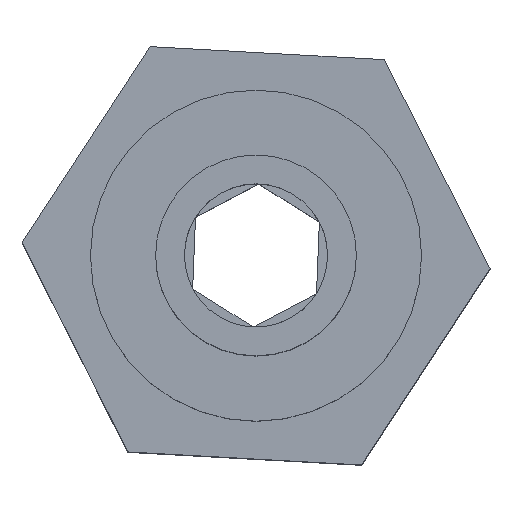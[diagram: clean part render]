
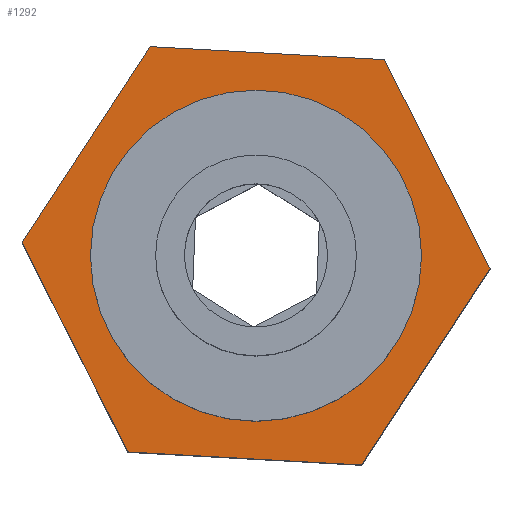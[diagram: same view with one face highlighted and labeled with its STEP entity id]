
A CAD part, top view. The second image highlights one B-rep face of the part: STEP entity #1292.
In plain terms, the highlighted planar face has unit normal (0, 0, 1).
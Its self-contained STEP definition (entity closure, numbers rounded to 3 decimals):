
#2 = DIRECTION ( 'NONE',  ( 0., 0., 1. ) ) ;
#20 = PLANE ( 'NONE',  #275 ) ;
#32 = CARTESIAN_POINT ( 'NONE',  ( -6.004, -9.181, 20. ) ) ;
#37 = CARTESIAN_POINT ( 'NONE',  ( -7.75, 0., 20. ) ) ;
#57 = EDGE_CURVE ( 'NONE', #422, #1365, #177, .T. ) ;
#61 = EDGE_CURVE ( 'NONE', #193, #1261, #715, .T. ) ;
#62 = DIRECTION ( 'NONE',  ( 0., 0., 1. ) ) ;
#64 = ORIENTED_EDGE ( 'NONE', *, *, #938, .T. ) ;
#108 = VERTEX_POINT ( 'NONE', #417 ) ;
#145 = ORIENTED_EDGE ( 'NONE', *, *, #61, .T. ) ;
#162 = DIRECTION ( 'NONE',  ( -0.547, -0.837, 0. ) ) ;
#170 = CARTESIAN_POINT ( 'NONE',  ( -4.949, 9.79, 20. ) ) ;
#177 = LINE ( 'NONE', #390, #1342 ) ;
#193 = VERTEX_POINT ( 'NONE', #517 ) ;
#200 = EDGE_CURVE ( 'NONE', #232, #945, #743, .T. ) ;
#203 = DIRECTION ( 'NONE',  ( -0.998, 0.056, 0. ) ) ;
#232 = VERTEX_POINT ( 'NONE', #630 ) ;
#246 = DIRECTION ( 'NONE',  ( 1., 0., 0. ) ) ;
#275 = AXIS2_PLACEMENT_3D ( 'NONE', #539, #2, #246 ) ;
#345 = FACE_BOUND ( 'NONE', #833, .T. ) ;
#366 = CARTESIAN_POINT ( 'NONE',  ( 10.953, -0.609, 20. ) ) ;
#390 = CARTESIAN_POINT ( 'NONE',  ( 4.949, -9.79, 20. ) ) ;
#400 = ORIENTED_EDGE ( 'NONE', *, *, #682, .T. ) ;
#417 = CARTESIAN_POINT ( 'NONE',  ( 7.75, 0., 20. ) ) ;
#419 = EDGE_CURVE ( 'NONE', #987, #108, #440, .T. ) ;
#422 = VERTEX_POINT ( 'NONE', #478 ) ;
#440 = CIRCLE ( 'NONE', #1323, 7.75 ) ;
#454 = CARTESIAN_POINT ( 'NONE',  ( -6.004, -9.181, 20. ) ) ;
#464 = EDGE_CURVE ( 'NONE', #1261, #422, #545, .T. ) ;
#478 = CARTESIAN_POINT ( 'NONE',  ( 4.949, -9.79, 20. ) ) ;
#487 = EDGE_LOOP ( 'NONE', ( #145, #1278, #559, #400, #1167, #64 ) ) ;
#517 = CARTESIAN_POINT ( 'NONE',  ( -10.953, 0.609, 20. ) ) ;
#539 = CARTESIAN_POINT ( 'NONE',  ( 0., 0., 20. ) ) ;
#545 = LINE ( 'NONE', #32, #1272 ) ;
#559 = ORIENTED_EDGE ( 'NONE', *, *, #57, .T. ) ;
#630 = CARTESIAN_POINT ( 'NONE',  ( 6.004, 9.181, 20. ) ) ;
#682 = EDGE_CURVE ( 'NONE', #1365, #232, #956, .T. ) ;
#715 = LINE ( 'NONE', #1349, #751 ) ;
#725 = DIRECTION ( 'NONE',  ( 0.451, -0.892, 0. ) ) ;
#736 = DIRECTION ( 'NONE',  ( 0., 0., 1. ) ) ;
#743 = LINE ( 'NONE', #1370, #1301 ) ;
#751 = VECTOR ( 'NONE', #725, 1000. ) ;
#773 = FACE_OUTER_BOUND ( 'NONE', #487, .T. ) ;
#783 = VECTOR ( 'NONE', #1071, 1000. ) ;
#803 = AXIS2_PLACEMENT_3D ( 'NONE', #1363, #736, #1175 ) ;
#822 = DIRECTION ( 'NONE',  ( 1., 0., 0. ) ) ;
#825 = ORIENTED_EDGE ( 'NONE', *, *, #419, .F. ) ;
#833 = EDGE_LOOP ( 'NONE', ( #825, #1008 ) ) ;
#837 = DIRECTION ( 'NONE',  ( 0.547, 0.837, 0. ) ) ;
#852 = CARTESIAN_POINT ( 'NONE',  ( 10.953, -0.609, 20. ) ) ;
#938 = EDGE_CURVE ( 'NONE', #945, #193, #1126, .T. ) ;
#945 = VERTEX_POINT ( 'NONE', #1105 ) ;
#956 = LINE ( 'NONE', #852, #783 ) ;
#987 = VERTEX_POINT ( 'NONE', #37 ) ;
#1008 = ORIENTED_EDGE ( 'NONE', *, *, #1085, .F. ) ;
#1028 = CIRCLE ( 'NONE', #803, 7.75 ) ;
#1071 = DIRECTION ( 'NONE',  ( -0.451, 0.892, 0. ) ) ;
#1085 = EDGE_CURVE ( 'NONE', #108, #987, #1028, .T. ) ;
#1105 = CARTESIAN_POINT ( 'NONE',  ( -4.949, 9.79, 20. ) ) ;
#1126 = LINE ( 'NONE', #170, #1185 ) ;
#1167 = ORIENTED_EDGE ( 'NONE', *, *, #200, .T. ) ;
#1175 = DIRECTION ( 'NONE',  ( 1., 0., 0. ) ) ;
#1185 = VECTOR ( 'NONE', #162, 1000. ) ;
#1186 = DIRECTION ( 'NONE',  ( 0.998, -0.056, 0. ) ) ;
#1221 = CARTESIAN_POINT ( 'NONE',  ( 0., 0., 20. ) ) ;
#1261 = VERTEX_POINT ( 'NONE', #454 ) ;
#1272 = VECTOR ( 'NONE', #1186, 1000. ) ;
#1278 = ORIENTED_EDGE ( 'NONE', *, *, #464, .T. ) ;
#1292 = ADVANCED_FACE ( 'NONE', ( #345, #773 ), #20, .T. ) ;
#1301 = VECTOR ( 'NONE', #203, 1000. ) ;
#1323 = AXIS2_PLACEMENT_3D ( 'NONE', #1221, #62, #822 ) ;
#1342 = VECTOR ( 'NONE', #837, 1000. ) ;
#1349 = CARTESIAN_POINT ( 'NONE',  ( -10.953, 0.609, 20. ) ) ;
#1363 = CARTESIAN_POINT ( 'NONE',  ( 0., 0., 20. ) ) ;
#1365 = VERTEX_POINT ( 'NONE', #366 ) ;
#1370 = CARTESIAN_POINT ( 'NONE',  ( 6.004, 9.181, 20. ) ) ;
